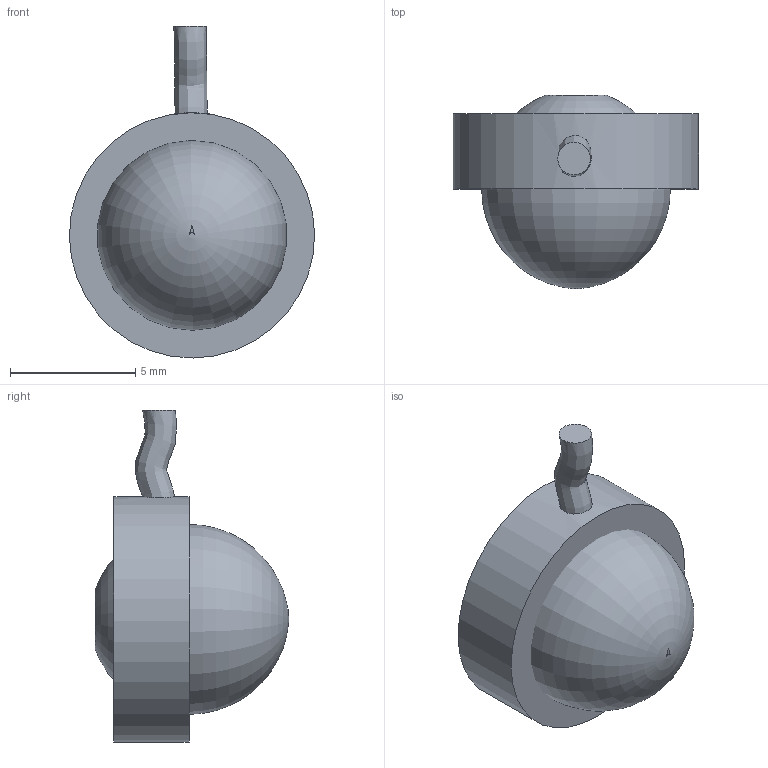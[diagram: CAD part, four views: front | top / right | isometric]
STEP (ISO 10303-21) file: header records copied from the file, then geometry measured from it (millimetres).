
FILE_DESCRIPTION(/* description */ ('Alibre Inc.'),/* implementation_level */ '2;1');
FILE_NAME(/* name */ 'export0',/* time_stamp */ '2010-10-14T12:29:36+02:00',/* author */ (''),/* organization */ (''),/* preprocessor_version */ 'ST-DEVELOPER v10',/* originating_system */ 'Alibre',/* authorisation */ '');
FILE_SCHEMA (('AUTOMOTIVE_DESIGN'));
Length unit declared in the file: centimetre
Bounding box: 9.8 x 7.74 x 13.27 mm (x, y, z)
Volume: 176.3 mm3; surface area: 622.9 mm2
Topology: 3 solids, 3 shells, 14 faces, 21 edges, 14 vertices
Faces by surface type: plane 7, cylinder 5, torus 1, bspline 1
Full cylindrical faces by diameter (mm): 1.3 x1, 2.4 x1, 7.4 x2, 9.8 x1
Entity records: 571 total; most frequent: CARTESIAN_POINT 260, DIRECTION 50, AXIS2_PLACEMENT_3D 29, ORIENTED_EDGE 26, FACE_BOUND 24, EDGE_LOOP 23, ADVANCED_FACE 14, VERTEX_POINT 13
